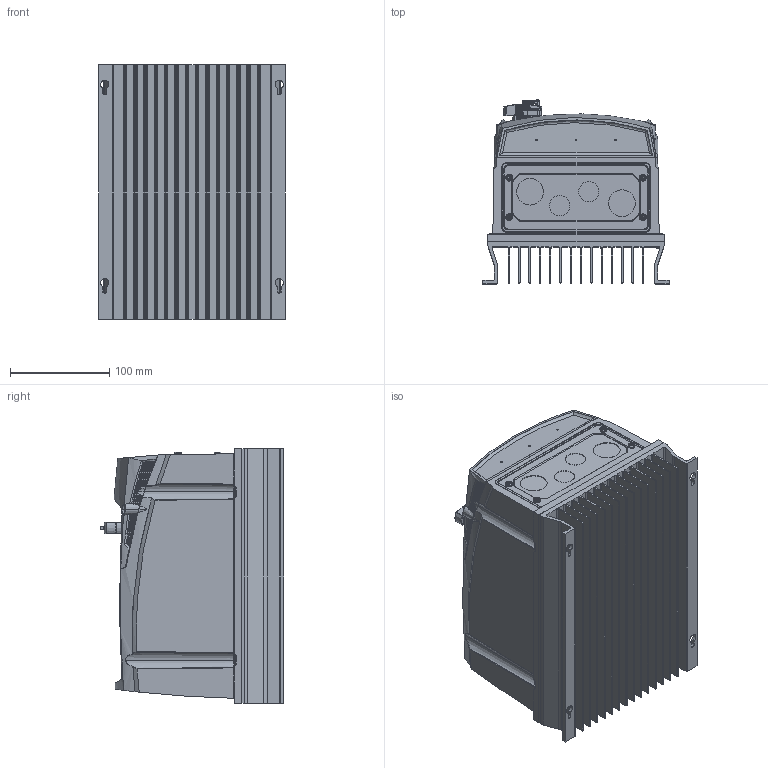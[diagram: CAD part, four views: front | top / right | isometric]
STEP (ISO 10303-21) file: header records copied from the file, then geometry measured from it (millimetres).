
FILE_DESCRIPTION (( 'STEP AP203' ), '1' );
FILE_NAME ('P2.IP66.SIZE2.Gen2.OLED.Switched-Closed (ENVELOPE) (4-Hole).STEP', '2022-08-03T11:19:46', ( '' ), ( '' ), 'SwSTEP 2.0', 'SolidWorks 2022', '' );
FILE_SCHEMA (( 'CONFIG_CONTROL_DESIGN' ));
Products named in the file (1): P2.IP66.SIZE2.Gen2.OLED.Switched-Closed (ENVELOPE) (4-Hole)
Bounding box: 188 x 185.5 x 257.09 mm (x, y, z)
Volume: 5278161.6 mm3; surface area: 512572.8 mm2
Topology: 1 solids, 11 shells, 3664 faces, 10433 edges, 6721 vertices
Faces by surface type: cylinder 890, bspline 767, sphere 726, plane 679, cone 434, torus 168
Entity records: 142482 total; most frequent: CARTESIAN_POINT 61667, ORIENTED_EDGE 18576, DIRECTION 14547, EDGE_CURVE 9288, AXIS2_PLACEMENT_3D 6100, VERTEX_POINT 6045, EDGE_LOOP 4017, ADVANCED_FACE 3630
